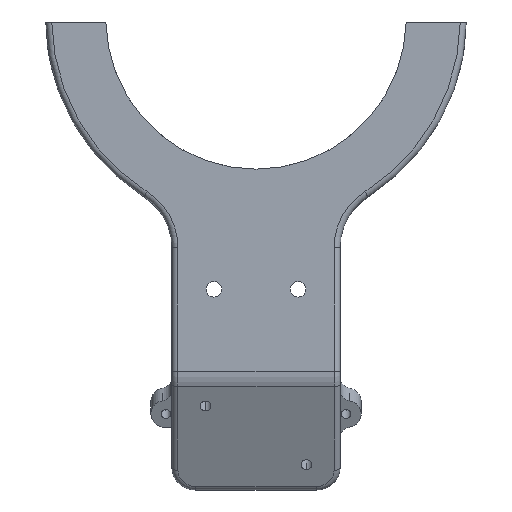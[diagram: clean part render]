
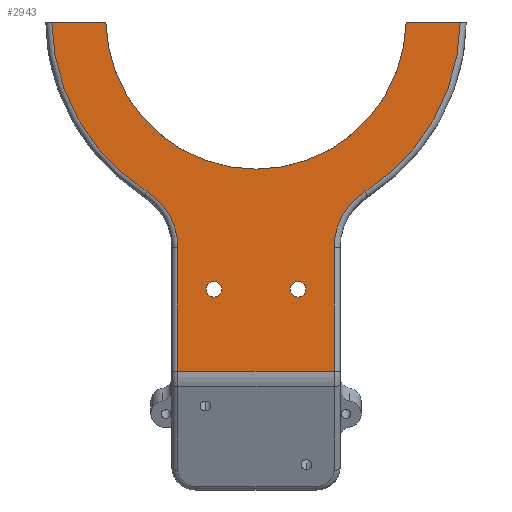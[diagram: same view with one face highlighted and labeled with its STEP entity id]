
A CAD part, top view. The second image highlights one B-rep face of the part: STEP entity #2943.
In plain terms, the highlighted planar face has unit normal (0, 0, 1).
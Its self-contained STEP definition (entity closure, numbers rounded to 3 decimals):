
#37 = VECTOR ( 'NONE', #3527, 1000. ) ;
#47 = DIRECTION ( 'NONE',  ( 0., 0., -1. ) ) ;
#103 = VERTEX_POINT ( 'NONE', #4236 ) ;
#113 = AXIS2_PLACEMENT_3D ( 'NONE', #3636, #2898, #4406 ) ;
#123 = DIRECTION ( 'NONE',  ( 0., 0., -1. ) ) ;
#124 = ORIENTED_EDGE ( 'NONE', *, *, #4522, .F. ) ;
#236 = ORIENTED_EDGE ( 'NONE', *, *, #647, .T. ) ;
#238 = EDGE_CURVE ( 'NONE', #2335, #1481, #4747, .T. ) ;
#249 = CIRCLE ( 'NONE', #707, 11. ) ;
#255 = CARTESIAN_POINT ( 'NONE',  ( 8.3, -45., 5. ) ) ;
#266 = ORIENTED_EDGE ( 'NONE', *, *, #1703, .T. ) ;
#282 = CARTESIAN_POINT ( 'NONE',  ( 18.133, -28.761, 5. ) ) ;
#310 = ORIENTED_EDGE ( 'NONE', *, *, #1136, .T. ) ;
#317 = CARTESIAN_POINT ( 'NONE',  ( 0., 0., 5. ) ) ;
#355 = DIRECTION ( 'NONE',  ( 0., 0., -1. ) ) ;
#397 = CIRCLE ( 'NONE', #2888, 25. ) ;
#419 = CIRCLE ( 'NONE', #1509, 34. ) ;
#447 = CARTESIAN_POINT ( 'NONE',  ( 24.995, -0.5, 5. ) ) ;
#453 = VERTEX_POINT ( 'NONE', #2013 ) ;
#527 = ORIENTED_EDGE ( 'NONE', *, *, #1777, .T. ) ;
#578 = CARTESIAN_POINT ( 'NONE',  ( 7., -45., 5. ) ) ;
#647 = EDGE_CURVE ( 'NONE', #3478, #3123, #2658, .T. ) ;
#707 = AXIS2_PLACEMENT_3D ( 'NONE', #1659, #123, #879 ) ;
#723 = EDGE_CURVE ( 'NONE', #3386, #453, #397, .T. ) ;
#726 = LINE ( 'NONE', #1152, #2746 ) ;
#753 = DIRECTION ( 'NONE',  ( 0., 0., 1. ) ) ;
#771 = EDGE_CURVE ( 'NONE', #103, #3056, #249, .T. ) ;
#879 = DIRECTION ( 'NONE',  ( 1., 0., 0. ) ) ;
#921 = DIRECTION ( 'NONE',  ( 0., 0., 1. ) ) ;
#1008 = FACE_BOUND ( 'NONE', #4128, .T. ) ;
#1055 = LINE ( 'NONE', #3707, #4465 ) ;
#1081 = ORIENTED_EDGE ( 'NONE', *, *, #771, .T. ) ;
#1136 = EDGE_CURVE ( 'NONE', #3123, #3507, #2661, .T. ) ;
#1152 = CARTESIAN_POINT ( 'NONE',  ( -13., 0., 5. ) ) ;
#1181 = AXIS2_PLACEMENT_3D ( 'NONE', #4814, #753, #3350 ) ;
#1217 = EDGE_LOOP ( 'NONE', ( #266, #236, #310, #527, #3399, #2430, #1081, #2595, #4113, #1976 ) ) ;
#1266 = ORIENTED_EDGE ( 'NONE', *, *, #1574, .F. ) ;
#1268 = DIRECTION ( 'NONE',  ( 1., 0., 0. ) ) ;
#1443 = DIRECTION ( 'NONE',  ( 1., 0., 0. ) ) ;
#1468 = FACE_OUTER_BOUND ( 'NONE', #1217, .T. ) ;
#1481 = VERTEX_POINT ( 'NONE', #1644 ) ;
#1496 = VECTOR ( 'NONE', #2038, 1000. ) ;
#1508 = VERTEX_POINT ( 'NONE', #3789 ) ;
#1509 = AXIS2_PLACEMENT_3D ( 'NONE', #317, #2537, #3147 ) ;
#1517 = EDGE_CURVE ( 'NONE', #2122, #3386, #3887, .T. ) ;
#1574 = EDGE_CURVE ( 'NONE', #1508, #2631, #4235, .T. ) ;
#1584 = EDGE_CURVE ( 'NONE', #4082, #3436, #1975, .T. ) ;
#1644 = CARTESIAN_POINT ( 'NONE',  ( 13., -58.67, 5. ) ) ;
#1659 = CARTESIAN_POINT ( 'NONE',  ( 24., -38.066, 5. ) ) ;
#1703 = EDGE_CURVE ( 'NONE', #453, #3478, #1055, .T. ) ;
#1711 = FACE_BOUND ( 'NONE', #2744, .T. ) ;
#1762 = CIRCLE ( 'NONE', #2993, 1.3 ) ;
#1777 = EDGE_CURVE ( 'NONE', #3507, #2335, #726, .T. ) ;
#1808 = CARTESIAN_POINT ( 'NONE',  ( -33.996, -0.5, 5. ) ) ;
#1975 = CIRCLE ( 'NONE', #2514, 1.3 ) ;
#1976 = ORIENTED_EDGE ( 'NONE', *, *, #723, .T. ) ;
#1989 = AXIS2_PLACEMENT_3D ( 'NONE', #2966, #4473, #3729 ) ;
#2013 = CARTESIAN_POINT ( 'NONE',  ( -24.995, -0.5, 5. ) ) ;
#2038 = DIRECTION ( 'NONE',  ( -1., 0., 0. ) ) ;
#2077 = CARTESIAN_POINT ( 'NONE',  ( -18.133, -28.761, 5. ) ) ;
#2089 = CARTESIAN_POINT ( 'NONE',  ( 7., -45., 5. ) ) ;
#2108 = DIRECTION ( 'NONE',  ( 0., 0., 1. ) ) ;
#2109 = CARTESIAN_POINT ( 'NONE',  ( 0., -58.67, 5. ) ) ;
#2122 = VERTEX_POINT ( 'NONE', #2827 ) ;
#2134 = DIRECTION ( 'NONE',  ( 1., 0., 0. ) ) ;
#2212 = DIRECTION ( 'NONE',  ( 1., 0., 0. ) ) ;
#2335 = VERTEX_POINT ( 'NONE', #3095 ) ;
#2409 = LINE ( 'NONE', #3895, #37 ) ;
#2430 = ORIENTED_EDGE ( 'NONE', *, *, #3864, .T. ) ;
#2431 = AXIS2_PLACEMENT_3D ( 'NONE', #2911, #355, #2212 ) ;
#2470 = DIRECTION ( 'NONE',  ( 1., 0., 0. ) ) ;
#2514 = AXIS2_PLACEMENT_3D ( 'NONE', #2089, #4746, #2134 ) ;
#2537 = DIRECTION ( 'NONE',  ( 0., 0., 1. ) ) ;
#2575 = CARTESIAN_POINT ( 'NONE',  ( 0., 0., 5. ) ) ;
#2595 = ORIENTED_EDGE ( 'NONE', *, *, #3030, .T. ) ;
#2631 = VERTEX_POINT ( 'NONE', #3659 ) ;
#2658 = CIRCLE ( 'NONE', #1181, 34. ) ;
#2661 = CIRCLE ( 'NONE', #2431, 11. ) ;
#2744 = EDGE_LOOP ( 'NONE', ( #1266, #3496 ) ) ;
#2746 = VECTOR ( 'NONE', #4124, 1000. ) ;
#2827 = CARTESIAN_POINT ( 'NONE',  ( 33.996, -0.5, 5. ) ) ;
#2888 = AXIS2_PLACEMENT_3D ( 'NONE', #2575, #47, #1443 ) ;
#2898 = DIRECTION ( 'NONE',  ( 0., 0., 1. ) ) ;
#2911 = CARTESIAN_POINT ( 'NONE',  ( -24., -38.066, 5. ) ) ;
#2943 = ADVANCED_FACE ( 'NONE', ( #1711, #1008, #1468 ), #3656, .T. ) ;
#2966 = CARTESIAN_POINT ( 'NONE',  ( 0., 0., 5. ) ) ;
#2993 = AXIS2_PLACEMENT_3D ( 'NONE', #578, #921, #1268 ) ;
#3021 = EDGE_CURVE ( 'NONE', #2631, #1508, #3369, .T. ) ;
#3030 = EDGE_CURVE ( 'NONE', #3056, #2122, #419, .T. ) ;
#3056 = VERTEX_POINT ( 'NONE', #282 ) ;
#3095 = CARTESIAN_POINT ( 'NONE',  ( -13., -58.67, 5. ) ) ;
#3123 = VERTEX_POINT ( 'NONE', #2077 ) ;
#3147 = DIRECTION ( 'NONE',  ( 1., 0., 0. ) ) ;
#3350 = DIRECTION ( 'NONE',  ( 1., 0., 0. ) ) ;
#3369 = CIRCLE ( 'NONE', #113, 1.3 ) ;
#3386 = VERTEX_POINT ( 'NONE', #3678 ) ;
#3399 = ORIENTED_EDGE ( 'NONE', *, *, #238, .T. ) ;
#3436 = VERTEX_POINT ( 'NONE', #255 ) ;
#3478 = VERTEX_POINT ( 'NONE', #1808 ) ;
#3496 = ORIENTED_EDGE ( 'NONE', *, *, #3021, .F. ) ;
#3507 = VERTEX_POINT ( 'NONE', #4102 ) ;
#3527 = DIRECTION ( 'NONE',  ( 0., 1., 0. ) ) ;
#3616 = CARTESIAN_POINT ( 'NONE',  ( -7., -45., 5. ) ) ;
#3636 = CARTESIAN_POINT ( 'NONE',  ( -7., -45., 5. ) ) ;
#3656 = PLANE ( 'NONE',  #1989 ) ;
#3659 = CARTESIAN_POINT ( 'NONE',  ( -8.3, -45., 5. ) ) ;
#3664 = VECTOR ( 'NONE', #4408, 1000. ) ;
#3678 = CARTESIAN_POINT ( 'NONE',  ( 24.995, -0.5, 5. ) ) ;
#3707 = CARTESIAN_POINT ( 'NONE',  ( -34.996, -0.5, 5. ) ) ;
#3729 = DIRECTION ( 'NONE',  ( 1., 0., 0. ) ) ;
#3789 = CARTESIAN_POINT ( 'NONE',  ( -5.7, -45., 5. ) ) ;
#3864 = EDGE_CURVE ( 'NONE', #1481, #103, #2409, .T. ) ;
#3887 = LINE ( 'NONE', #447, #1496 ) ;
#3895 = CARTESIAN_POINT ( 'NONE',  ( 13., 0., 5. ) ) ;
#4056 = CARTESIAN_POINT ( 'NONE',  ( 5.7, -45., 5. ) ) ;
#4082 = VERTEX_POINT ( 'NONE', #4056 ) ;
#4102 = CARTESIAN_POINT ( 'NONE',  ( -13., -38.066, 5. ) ) ;
#4113 = ORIENTED_EDGE ( 'NONE', *, *, #1517, .T. ) ;
#4124 = DIRECTION ( 'NONE',  ( 0., -1., 0. ) ) ;
#4128 = EDGE_LOOP ( 'NONE', ( #124, #4828 ) ) ;
#4235 = CIRCLE ( 'NONE', #4545, 1.3 ) ;
#4236 = CARTESIAN_POINT ( 'NONE',  ( 13., -38.066, 5. ) ) ;
#4406 = DIRECTION ( 'NONE',  ( 1., 0., 0. ) ) ;
#4408 = DIRECTION ( 'NONE',  ( 1., 0., 0. ) ) ;
#4465 = VECTOR ( 'NONE', #4836, 1000. ) ;
#4473 = DIRECTION ( 'NONE',  ( 0., 0., 1. ) ) ;
#4522 = EDGE_CURVE ( 'NONE', #3436, #4082, #1762, .T. ) ;
#4545 = AXIS2_PLACEMENT_3D ( 'NONE', #3616, #2108, #2470 ) ;
#4746 = DIRECTION ( 'NONE',  ( 0., 0., 1. ) ) ;
#4747 = LINE ( 'NONE', #2109, #3664 ) ;
#4814 = CARTESIAN_POINT ( 'NONE',  ( 0., 0., 5. ) ) ;
#4828 = ORIENTED_EDGE ( 'NONE', *, *, #1584, .F. ) ;
#4836 = DIRECTION ( 'NONE',  ( -1., 0., 0. ) ) ;
